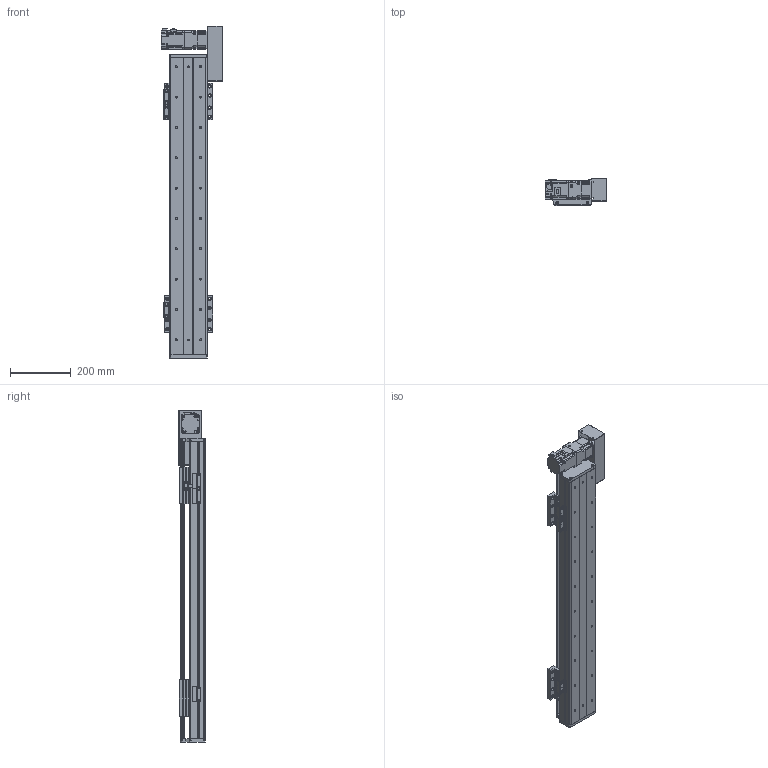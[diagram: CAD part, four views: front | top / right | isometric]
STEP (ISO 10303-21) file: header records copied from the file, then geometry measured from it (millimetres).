
FILE_DESCRIPTION(/* description */ (''),/* implementation_level */ '2;1');
FILE_NAME(/* name */ 'C:\Users\PC\Desktop\3D도면\STEP\STEP\DSB125-R2G-W0700-L.stp',/* time_stamp */ '2018-06-13T15:56:43+09:00',/* author */ ('PC'),/* organization */ (''),/* preprocessor_version */ 'ST-DEVELOPER v16.5',/* originating_system */ 'Autodesk Inventor 2017',/* authorisation */ '');
FILE_SCHEMA (('AUTOMOTIVE_DESIGN { 1 0 10303 214 3 1 1 }'));
Length unit declared in the file: millimetre
Products named in the file (12): DSB125-L2G-W0700-R_MIR; DSB125-BASE_MIR; DSB125-FRONT COVER_MIR; DSB125-REAR COVER_MIR; DSB125-UP COVER_MIR; DSB125-TABLE(MSB15S)_MIR; hg-kr23__MIR; ab0601-p0401200402_MIR; 13-BELT COVER_MIR; DSR125-SENSOR DOG_MIR; pm-y65_step_MIR; SENSOR BRACKET(EE-SX674A)_MIR
Assembly tree (16 placements, depth 2):
  DSB125-L2G-W0700-R_MIR
    DSB125-BASE_MIR
    DSB125-FRONT COVER_MIR
    DSB125-REAR COVER_MIR
    DSB125-UP COVER_MIR
    DSB125-TABLE(MSB15S)_MIR  x2
    hg-kr23__MIR
    ab0601-p0401200402_MIR
    13-BELT COVER_MIR
    DSR125-SENSOR DOG_MIR
    pm-y65_step_MIR  x3
    SENSOR BRACKET(EE-SX674A)_MIR  x3
Bounding box: 202.1 x 88 x 1094 mm (x, y, z)
Volume: 3977591.6 mm3; surface area: 1147483.8 mm2
Topology: 17 solids, 17 shells, 1651 faces, 4480 edges, 2954 vertices
Faces by surface type: plane 903, cylinder 626, cone 110, sphere 8, torus 4
Full cylindrical faces by diameter (mm): 2.459 x20, 3.242 x16, 3.5 x6, 4 x1, 4.134 x16, 4.2 x4, 4.3 x1, 4.5 x50, 4.917 x20, 5 x22, 5.3 x1, 5.5 x4, 5.6 x8, 5.8 x4, 5.9 x8, 6 x4, 6.6 x22, 6.647 x20, 7.5 x32, 8.5 x8, 8.7 x1, 11 x22, 14 x1, 16 x2, 17 x1, 20 x1, 47 x1, 50 x3
Entity records: 35801 total; most frequent: CARTESIAN_POINT 6459, DIRECTION 6074, ORIENTED_EDGE 5458, EDGE_CURVE 2729, AXIS2_PLACEMENT_3D 2225, VERTEX_POINT 1938, EDGE_LOOP 1653, LINE 1624
